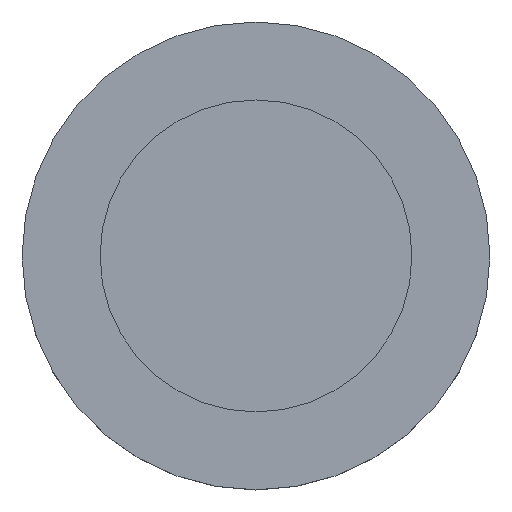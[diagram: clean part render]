
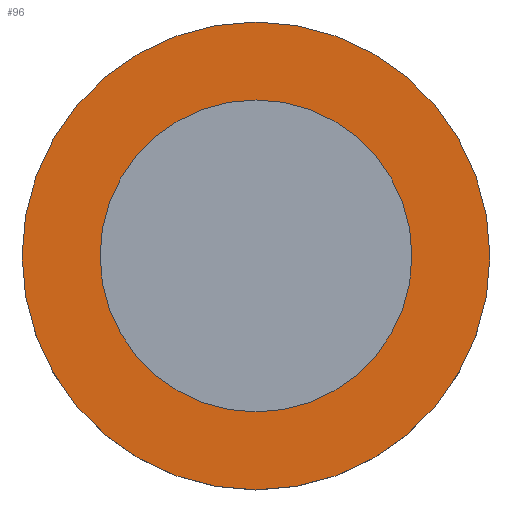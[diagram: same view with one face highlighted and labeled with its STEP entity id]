
A CAD part, top view. The second image highlights one B-rep face of the part: STEP entity #96.
In plain terms, the highlighted planar face has unit normal (0, 0, 1).
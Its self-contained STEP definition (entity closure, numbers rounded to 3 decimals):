
#96=ADVANCED_FACE('',(#104,#105),#106,.F.);
#104=FACE_BOUND('',#117,.T.);
#105=FACE_OUTER_BOUND('',#118,.T.);
#106=PLANE('',#119);
#117=EDGE_LOOP('',(#195));
#118=EDGE_LOOP('',(#196,#197));
#119=AXIS2_PLACEMENT_3D('',#198,#199,#200);
#195=ORIENTED_EDGE('',*,*,#213,.F.);
#196=ORIENTED_EDGE('',*,*,#214,.T.);
#197=ORIENTED_EDGE('',*,*,#215,.T.);
#198=CARTESIAN_POINT('',(0.,10.0,5.5));
#199=DIRECTION('',(0.0,0.0,-1.0));
#200=DIRECTION('',(-1.0,0.0,0.0));
#213=EDGE_CURVE('',#218,#218,#219,.T.);
#214=EDGE_CURVE('',#220,#221,#222,.T.);
#215=EDGE_CURVE('',#221,#220,#223,.T.);
#218=VERTEX_POINT('',#226);
#219=CIRCLE('',#227,5.0);
#220=VERTEX_POINT('',#228);
#221=VERTEX_POINT('',#229);
#222=CIRCLE('',#230,7.5);
#223=CIRCLE('',#231,7.5);
#226=CARTESIAN_POINT('',(0.,-5.0,5.5));
#227=AXIS2_PLACEMENT_3D('',#235,#236,#237);
#228=CARTESIAN_POINT('',(0.,-7.5,5.5));
#229=CARTESIAN_POINT('',(0.0,7.5,5.5));
#230=AXIS2_PLACEMENT_3D('',#238,#239,#240);
#231=AXIS2_PLACEMENT_3D('',#241,#242,#243);
#235=CARTESIAN_POINT('',(0.0,0.0,5.5));
#236=DIRECTION('',(0.0,0.0,1.0));
#237=DIRECTION('',(0.0,-1.0,0.0));
#238=CARTESIAN_POINT('',(0.0,0.0,5.5));
#239=DIRECTION('',(0.0,-0.0,1.0));
#240=DIRECTION('',(0.0,1.0,0.0));
#241=CARTESIAN_POINT('',(0.0,0.0,5.5));
#242=DIRECTION('',(0.0,-0.0,1.0));
#243=DIRECTION('',(0.0,1.0,0.0));
